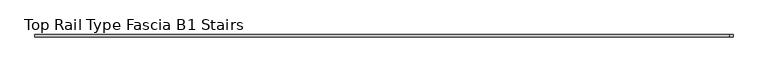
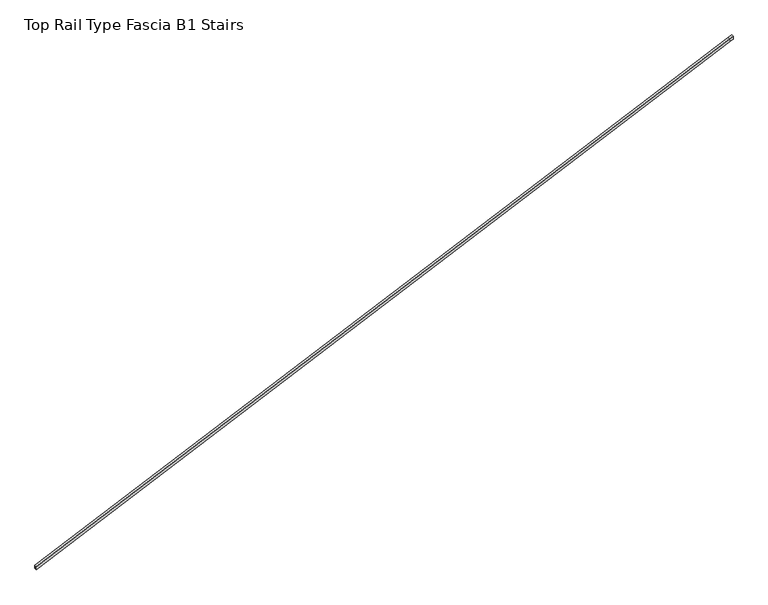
"""IFC4 building model written with IfcOpenShell, lengths in millimetres: proxy geometry, Top Rail Type Fascia B1 Stairs."""

from ifc_helpers import new_model, si_unit, origin, place, context, project, spatial, faceted_brep, source, transform, mapped, element, save


def top_rail_type_fascia_b1_stairs_935976b1(model_context):
    return source(origin(), model_context, "Body", "Brep", [
        faceted_brep([(-13776.2360127, 22773.6986942, 1246.4266645), (-13776.2360127, 22795.9236942, 1246.4266645), (-13776.2360127, 22795.9236942, 1218.5240022), (-13776.2360127, 22791.1611942, 1218.5240022), (-13776.2360127, 22791.1611942, 1241.1949153), (-13776.2360127, 22778.4611942, 1241.1949153), (-13776.2360127, 22778.4611942, 1218.5240022), (-13776.2360127, 22773.6986942, 1218.5240022), (-7477.0360127, 22773.6986942, 4110.7843758), (-7477.0360127, 22795.9236942, 4110.7843758), (-7466.5221174, 22795.9236942, 4087.6625677), (-7466.5221174, 22791.1611942, 4087.6625677), (-7475.0646573, 22791.1611942, 4106.4490368), (-7475.0646573, 22778.4611942, 4106.4490368), (-7466.5221174, 22778.4611942, 4087.6625677), (-7466.5221174, 22773.6986942, 4087.6625677), (-7440.275569, 22773.6986942, 4127.5), (-7440.275569, 22773.6986942, 4099.5973377), (-7440.275569, 22778.4611942, 4099.5973377), (-7440.275569, 22778.4611942, 4122.2682508), (-7440.275569, 22791.1611942, 4122.2682508), (-7440.275569, 22791.1611942, 4099.5973377), (-7440.275569, 22795.9236942, 4099.5973377), (-7440.275569, 22795.9236942, 4127.5)], [[[0, 1, 2, 3, 4, 5, 6, 7]], [[1, 0, 8, 9]], [[2, 1, 9, 10]], [[3, 2, 10, 11]], [[4, 3, 11, 12]], [[5, 4, 12, 13]], [[6, 5, 13, 14]], [[7, 6, 14, 15]], [[0, 7, 15, 8]], [[16, 17, 18, 19, 20, 21, 22, 23]], [[9, 8, 16, 23]], [[10, 9, 23, 22]], [[11, 10, 22, 21]], [[12, 11, 21, 20]], [[13, 12, 20, 19]], [[14, 13, 19, 18]], [[15, 14, 18, 17]], [[8, 15, 17, 16]]]),
    ])


if __name__ == "__main__":
    model = new_model("IFC4")
    model_context = context("Model", 3, world=origin())
    ifc_project = project(units=[si_unit("LENGTHUNIT", "METRE", prefix="MILLI")], contexts=[model_context])
    site = spatial("IfcSite", under=ifc_project)
    building = spatial("IfcBuilding", under=site)
    placement = place(None, origin())
    top_rail_type_fascia_b1_stairs_shape = top_rail_type_fascia_b1_stairs_935976b1(model_context)
    element("IfcBuildingElementProxy", 1, Name="Top Rail Type Fascia B1 Stairs", ObjectType="Top Rail Type Fascia B1 Stairs", at=placement, inside=building, context=model_context, shape_type="MappedRepresentation", body=[
        mapped(top_rail_type_fascia_b1_stairs_shape, transform((0.0, 0.0, 0.0), x_axis=(1.0, 0.0, 0.0), y_axis=(0.0, 1.0, 0.0), z_axis=(0.0, 0.0, 1.0))),
    ])
    save(model, "model.ifc")
